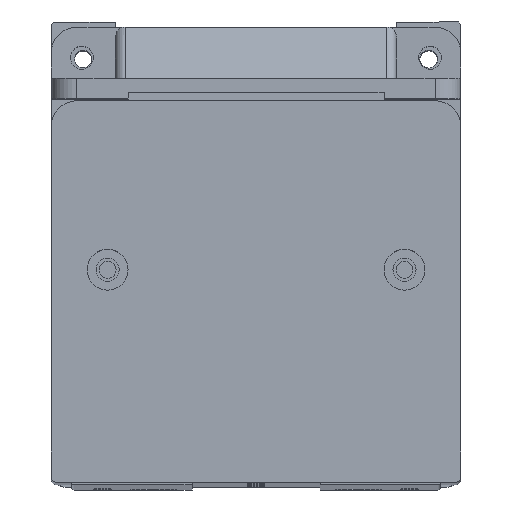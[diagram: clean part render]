
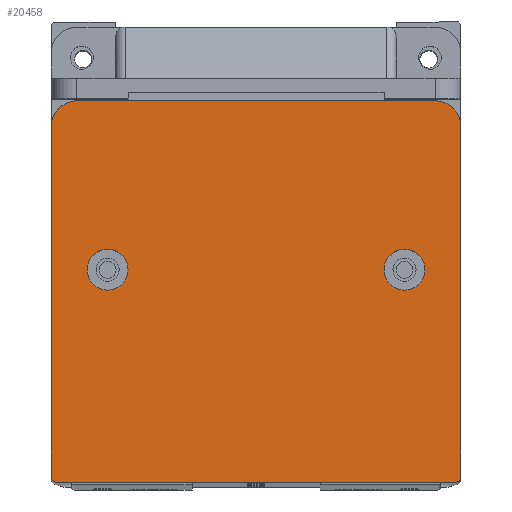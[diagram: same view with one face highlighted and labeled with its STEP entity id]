
A CAD part, top view. The second image highlights one B-rep face of the part: STEP entity #20458.
In plain terms, the highlighted planar face has unit normal (0, 0, 1).
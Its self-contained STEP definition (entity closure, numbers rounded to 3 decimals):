
#228 = CARTESIAN_POINT ( 'NONE',  ( 75., 74.5, 10. ) ) ;
#475 = AXIS2_PLACEMENT_3D ( 'NONE', #14680, #3518, #3433 ) ;
#1008 = CIRCLE ( 'NONE', #23403, 1. ) ;
#1173 = CIRCLE ( 'NONE', #2213, 4. ) ;
#1182 = CIRCLE ( 'NONE', #15854, 4. ) ;
#1246 = DIRECTION ( 'NONE',  ( 0., 0., -1. ) ) ;
#1352 = VERTEX_POINT ( 'NONE', #20818 ) ;
#1412 = ORIENTED_EDGE ( 'NONE', *, *, #19829, .T. ) ;
#1569 = AXIS2_PLACEMENT_3D ( 'NONE', #10992, #1246, #7257 ) ;
#1713 = VERTEX_POINT ( 'NONE', #5779 ) ;
#1804 = DIRECTION ( 'NONE',  ( 0., 0., 1. ) ) ;
#1871 = EDGE_CURVE ( 'NONE', #6901, #6727, #8031, .T. ) ;
#2084 = FACE_BOUND ( 'NONE', #3212, .T. ) ;
#2205 = CARTESIAN_POINT ( 'NONE',  ( 5., 69.5, 10. ) ) ;
#2213 = AXIS2_PLACEMENT_3D ( 'NONE', #21480, #4920, #17950 ) ;
#2927 = CARTESIAN_POINT ( 'NONE',  ( 0., 0., 10. ) ) ;
#3027 = DIRECTION ( 'NONE',  ( 0., -1., 0. ) ) ;
#3212 = EDGE_LOOP ( 'NONE', ( #24242, #5230 ) ) ;
#3433 = DIRECTION ( 'NONE',  ( -1., 0., 0. ) ) ;
#3518 = DIRECTION ( 'NONE',  ( 0., 0., 1. ) ) ;
#3784 = AXIS2_PLACEMENT_3D ( 'NONE', #2205, #19216, #4318 ) ;
#3917 = CARTESIAN_POINT ( 'NONE',  ( 69., 41.5, 10. ) ) ;
#4158 = LINE ( 'NONE', #2927, #5916 ) ;
#4318 = DIRECTION ( 'NONE',  ( -1., 0., 0. ) ) ;
#4445 = DIRECTION ( 'NONE',  ( 0., 0., 1. ) ) ;
#4640 = DIRECTION ( 'NONE',  ( 1., 0., 0. ) ) ;
#4706 = CARTESIAN_POINT ( 'NONE',  ( 11., 41.5, 10. ) ) ;
#4752 = CARTESIAN_POINT ( 'NONE',  ( 0., 74.5, 10. ) ) ;
#4920 = DIRECTION ( 'NONE',  ( 0., 0., 1. ) ) ;
#5230 = ORIENTED_EDGE ( 'NONE', *, *, #10033, .F. ) ;
#5343 = CARTESIAN_POINT ( 'NONE',  ( 0., 1., 10. ) ) ;
#5587 = CARTESIAN_POINT ( 'NONE',  ( 79., 1., 10. ) ) ;
#5630 = DIRECTION ( 'NONE',  ( 1., 0., 0. ) ) ;
#5678 = ORIENTED_EDGE ( 'NONE', *, *, #10682, .T. ) ;
#5779 = CARTESIAN_POINT ( 'NONE',  ( 7., 41.5, 10. ) ) ;
#5916 = VECTOR ( 'NONE', #4640, 1000. ) ;
#6320 = CARTESIAN_POINT ( 'NONE',  ( 80., 69.5, 10. ) ) ;
#6709 = FACE_OUTER_BOUND ( 'NONE', #23104, .T. ) ;
#6727 = VERTEX_POINT ( 'NONE', #228 ) ;
#6901 = VERTEX_POINT ( 'NONE', #6320 ) ;
#7257 = DIRECTION ( 'NONE',  ( -1., 0., 0. ) ) ;
#7266 = CARTESIAN_POINT ( 'NONE',  ( 80., 0., 10. ) ) ;
#7589 = EDGE_CURVE ( 'NONE', #22421, #22054, #8479, .T. ) ;
#7632 = ORIENTED_EDGE ( 'NONE', *, *, #1871, .T. ) ;
#8031 = CIRCLE ( 'NONE', #18911, 5. ) ;
#8317 = ORIENTED_EDGE ( 'NONE', *, *, #7589, .T. ) ;
#8346 = DIRECTION ( 'NONE',  ( -1., 0., 0. ) ) ;
#8479 = CIRCLE ( 'NONE', #475, 1. ) ;
#8988 = LINE ( 'NONE', #4752, #10721 ) ;
#9476 = DIRECTION ( 'NONE',  ( 0., 0., 1. ) ) ;
#10033 = EDGE_CURVE ( 'NONE', #1713, #19915, #1173, .T. ) ;
#10092 = VECTOR ( 'NONE', #3027, 1000. ) ;
#10181 = VERTEX_POINT ( 'NONE', #22113 ) ;
#10595 = CIRCLE ( 'NONE', #18187, 4. ) ;
#10682 = EDGE_CURVE ( 'NONE', #17329, #6901, #13679, .T. ) ;
#10721 = VECTOR ( 'NONE', #8346, 1000. ) ;
#10900 = EDGE_CURVE ( 'NONE', #14782, #1352, #18075, .T. ) ;
#10992 = CARTESIAN_POINT ( 'NONE',  ( 0., 0., 10. ) ) ;
#11002 = DIRECTION ( 'NONE',  ( -1., 0., 0. ) ) ;
#12739 = EDGE_CURVE ( 'NONE', #1352, #22421, #19187, .T. ) ;
#13325 = DIRECTION ( 'NONE',  ( 0., 0., 1. ) ) ;
#13628 = EDGE_CURVE ( 'NONE', #10181, #17329, #1008, .T. ) ;
#13679 = LINE ( 'NONE', #7266, #23401 ) ;
#13804 = EDGE_CURVE ( 'NONE', #20045, #16837, #10595, .T. ) ;
#14042 = CARTESIAN_POINT ( 'NONE',  ( 0., 0., 10. ) ) ;
#14245 = DIRECTION ( 'NONE',  ( 0., 0., 1. ) ) ;
#14680 = CARTESIAN_POINT ( 'NONE',  ( 1., 1., 10. ) ) ;
#14782 = VERTEX_POINT ( 'NONE', #17537 ) ;
#15143 = DIRECTION ( 'NONE',  ( -1., 0., 0. ) ) ;
#15724 = DIRECTION ( 'NONE',  ( 1., 0., 0. ) ) ;
#15779 = ORIENTED_EDGE ( 'NONE', *, *, #17087, .T. ) ;
#15854 = AXIS2_PLACEMENT_3D ( 'NONE', #4706, #14245, #21900 ) ;
#16177 = PLANE ( 'NONE',  #1569 ) ;
#16324 = CARTESIAN_POINT ( 'NONE',  ( 80., 1., 10. ) ) ;
#16452 = FACE_BOUND ( 'NONE', #22219, .T. ) ;
#16512 = CARTESIAN_POINT ( 'NONE',  ( 65., 41.5, 10. ) ) ;
#16837 = VERTEX_POINT ( 'NONE', #20209 ) ;
#17087 = EDGE_CURVE ( 'NONE', #22054, #10181, #4158, .T. ) ;
#17329 = VERTEX_POINT ( 'NONE', #16324 ) ;
#17537 = CARTESIAN_POINT ( 'NONE',  ( 5., 74.5, 10. ) ) ;
#17698 = CARTESIAN_POINT ( 'NONE',  ( 15., 41.5, 10. ) ) ;
#17705 = CARTESIAN_POINT ( 'NONE',  ( 69., 41.5, 10. ) ) ;
#17756 = AXIS2_PLACEMENT_3D ( 'NONE', #3917, #9476, #5630 ) ;
#17950 = DIRECTION ( 'NONE',  ( 1., 0., 0. ) ) ;
#18075 = CIRCLE ( 'NONE', #3784, 5. ) ;
#18187 = AXIS2_PLACEMENT_3D ( 'NONE', #17705, #4445, #15724 ) ;
#18407 = DIRECTION ( 'NONE',  ( 0., 1., 0. ) ) ;
#18911 = AXIS2_PLACEMENT_3D ( 'NONE', #22349, #1804, #11002 ) ;
#19187 = LINE ( 'NONE', #14042, #10092 ) ;
#19209 = ORIENTED_EDGE ( 'NONE', *, *, #12739, .T. ) ;
#19216 = DIRECTION ( 'NONE',  ( 0., 0., 1. ) ) ;
#19829 = EDGE_CURVE ( 'NONE', #6727, #14782, #8988, .T. ) ;
#19838 = CIRCLE ( 'NONE', #17756, 4. ) ;
#19915 = VERTEX_POINT ( 'NONE', #17698 ) ;
#20045 = VERTEX_POINT ( 'NONE', #16512 ) ;
#20112 = ORIENTED_EDGE ( 'NONE', *, *, #10900, .T. ) ;
#20209 = CARTESIAN_POINT ( 'NONE',  ( 73., 41.5, 10. ) ) ;
#20458 = ADVANCED_FACE ( 'NONE', ( #16452, #2084, #6709 ), #16177, .F. ) ;
#20818 = CARTESIAN_POINT ( 'NONE',  ( 0., 69.5, 10. ) ) ;
#20912 = ORIENTED_EDGE ( 'NONE', *, *, #13804, .F. ) ;
#21480 = CARTESIAN_POINT ( 'NONE',  ( 11., 41.5, 10. ) ) ;
#21900 = DIRECTION ( 'NONE',  ( 1., 0., 0. ) ) ;
#22054 = VERTEX_POINT ( 'NONE', #22729 ) ;
#22113 = CARTESIAN_POINT ( 'NONE',  ( 79., 0., 10. ) ) ;
#22219 = EDGE_LOOP ( 'NONE', ( #22669, #20912 ) ) ;
#22286 = EDGE_CURVE ( 'NONE', #19915, #1713, #1182, .T. ) ;
#22349 = CARTESIAN_POINT ( 'NONE',  ( 75., 69.5, 10. ) ) ;
#22421 = VERTEX_POINT ( 'NONE', #5343 ) ;
#22669 = ORIENTED_EDGE ( 'NONE', *, *, #23089, .F. ) ;
#22729 = CARTESIAN_POINT ( 'NONE',  ( 1., 0., 10. ) ) ;
#23089 = EDGE_CURVE ( 'NONE', #16837, #20045, #19838, .T. ) ;
#23104 = EDGE_LOOP ( 'NONE', ( #19209, #8317, #15779, #23957, #5678, #7632, #1412, #20112 ) ) ;
#23401 = VECTOR ( 'NONE', #18407, 1000. ) ;
#23403 = AXIS2_PLACEMENT_3D ( 'NONE', #5587, #13325, #15143 ) ;
#23957 = ORIENTED_EDGE ( 'NONE', *, *, #13628, .T. ) ;
#24242 = ORIENTED_EDGE ( 'NONE', *, *, #22286, .F. ) ;
